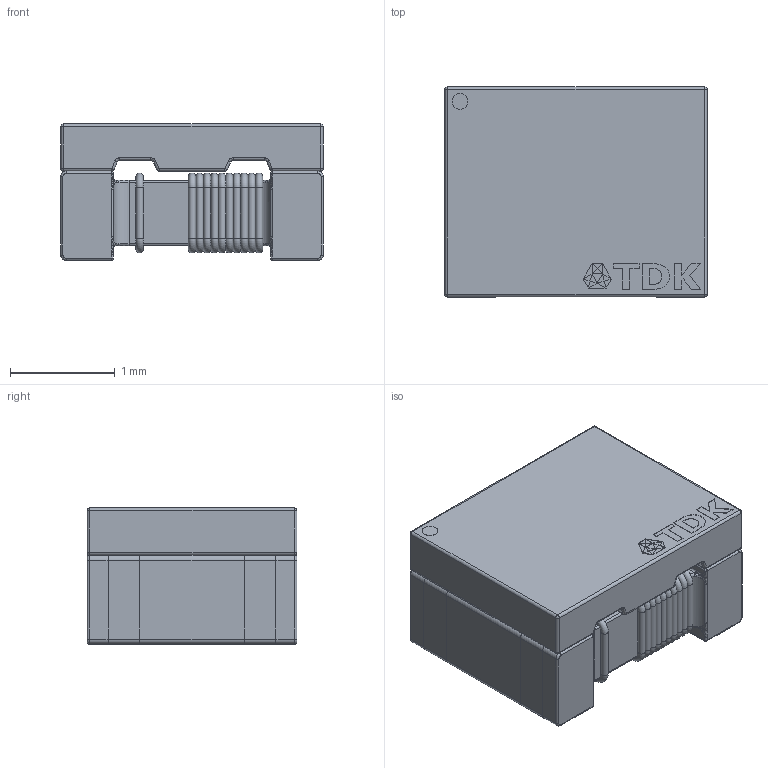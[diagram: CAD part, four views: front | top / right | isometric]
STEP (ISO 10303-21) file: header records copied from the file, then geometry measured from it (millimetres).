
FILE_DESCRIPTION(/* description */ (''),/* implementation_level */ '2;1');
FILE_NAME(/* name */ 'H:\_UPVERTER\Upverter 3D models\TDK\ACM2520-301-2P-T002\TDK ACM2520-301-2P-T002.stp',/* time_stamp */ '2021-12-03T08:50:13-04:00',/* author */ ('rabri'),/* organization */ (''),/* preprocessor_version */ 'ST-DEVELOPER v18',/* originating_system */ 'Autodesk Inventor 2020',/* authorisation */ '');
FILE_SCHEMA (('AUTOMOTIVE_DESIGN { 1 0 10303 214 3 1 1 }'));
Length unit declared in the file: millimetre
Products named in the file (6): TDK ACM9070-701-2PL-TL01; body; terminal; coil; logo; top
Assembly tree (5 placements, depth 2):
  TDK ACM9070-701-2PL-TL01
    body
    terminal
    coil
    logo
    top
Bounding box: 2.5 x 2 x 1.3 mm (x, y, z)
Volume: 5.6 mm3; surface area: 48 mm2
Topology: 30 solids, 30 shells, 488 faces, 1288 edges, 838 vertices
Faces by surface type: plane 183, cylinder 141, bspline 72, torus 68, sphere 24
Full cylindrical faces by diameter (mm): 0.07 x44, 0.151 x1
Entity records: 19131 total; most frequent: CARTESIAN_POINT 6729, ORIENTED_EDGE 2576, DIRECTION 2566, EDGE_CURVE 1288, AXIS2_PLACEMENT_3D 995, VERTEX_POINT 838, LINE 576, VECTOR 576
